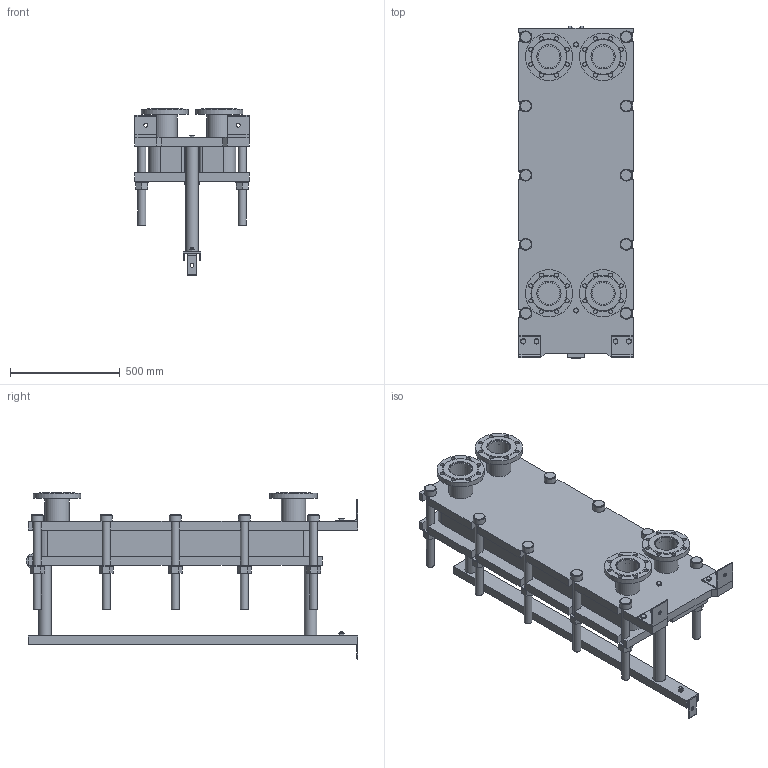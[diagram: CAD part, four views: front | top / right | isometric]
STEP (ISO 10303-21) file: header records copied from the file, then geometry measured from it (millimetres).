
FILE_DESCRIPTION(/* description */ (''),/* implementation_level */ '2;1');
FILE_NAME(/* name */ 'C:\Users\zhuro\Desktop\ENCO\TO\ЭН-04\ЭН-0,5-04-35-1.stp',/* time_stamp */ '2022-06-06T10:46:59+03:00',/* author */ ('zhuro'),/* organization */ (''),/* preprocessor_version */ 'ST-DEVELOPER v18.1',/* originating_system */ 'Autodesk Inventor 2022',/* authorisation */ '');
FILE_SCHEMA (('AUTOMOTIVE_DESIGN { 1 0 10303 214 3 1 1 }'));
Length unit declared in the file: millimetre
Products named in the file (1): ЭН-0,5-04-35-1
Bounding box: 520 x 1510 x 757.5 mm (x, y, z)
Volume: 128052340.5 mm3; surface area: 6925905.8 mm2
Topology: 45 solids, 45 shells, 668 faces, 1611 edges, 1048 vertices
Faces by surface type: plane 457, cylinder 166, cone 39, torus 6
Full cylindrical faces by diameter (mm): 8 x4, 10 x2, 16 x8, 18 x35, 36 x25, 40 x2, 42 x1, 45 x4, 54 x10, 57 x2, 60 x10, 68 x2, 100 x4, 110 x8, 215 x4
Entity records: 23607 total; most frequent: CARTESIAN_POINT 7348, DIRECTION 3371, ORIENTED_EDGE 3142, EDGE_CURVE 1571, AXIS2_PLACEMENT_3D 1199, VERTEX_POINT 1044, LINE 973, VECTOR 973
